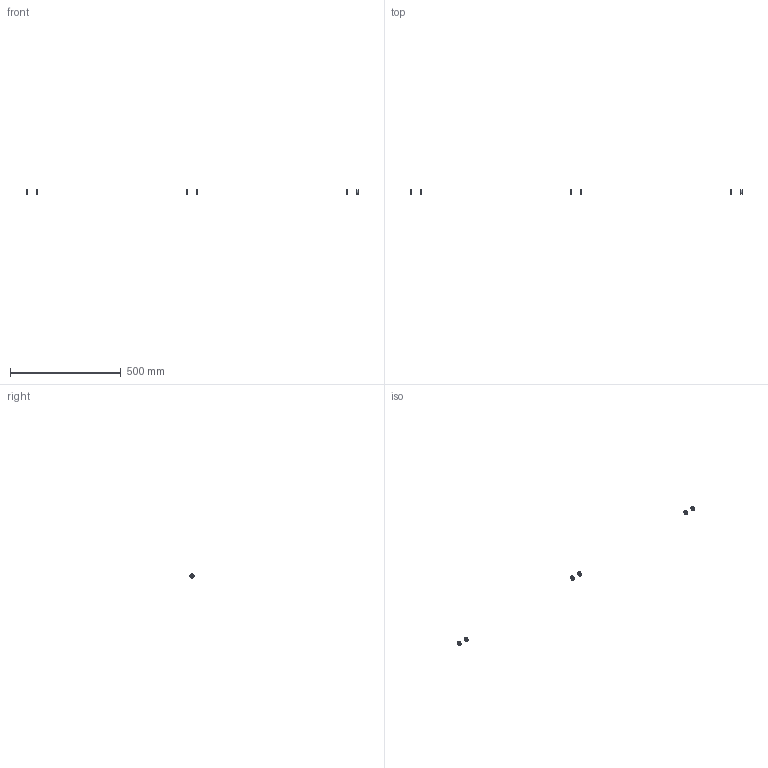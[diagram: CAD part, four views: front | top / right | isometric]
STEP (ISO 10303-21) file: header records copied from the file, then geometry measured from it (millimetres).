
FILE_DESCRIPTION(/* description */ (''),/* implementation_level */ '2;1');
FILE_NAME(/* name */ 'Y-DRIV~2',/* time_stamp */ '2014-02-14T19:38:21+01:00',/* author */ (''),/* organization */ (''),/* preprocessor_version */ 'ST-DEVELOPER v14',/* originating_system */ '',/* authorisation */ '');
FILE_SCHEMA (('AUTOMOTIVE_DESIGN'));
Length unit declared in the file: millimetre
Products named in the file (2): Document; ball bearing 6x19x6mm
Assembly tree (4 placements, depth 2):
  Document
    ball bearing 6x19x6mm  x4
Bounding box: 1496 x 18.97 x 19 mm (x, y, z)
Volume: 9217.7 mm3; surface area: 5892.6 mm2
Topology: 6 solids, 6 shells, 48 faces, 96 edges, 48 vertices
Faces by surface type: bspline 48
Entity records: 1528 total; most frequent: CARTESIAN_POINT 823, B_SPLINE_CURVE_WITH_KNOTS 120, ORIENTED_EDGE 96, PCURVE 96, DEFINITIONAL_REPRESENTATION 96, SURFACE_CURVE 48, EDGE_CURVE 48, ADVANCED_FACE 24
